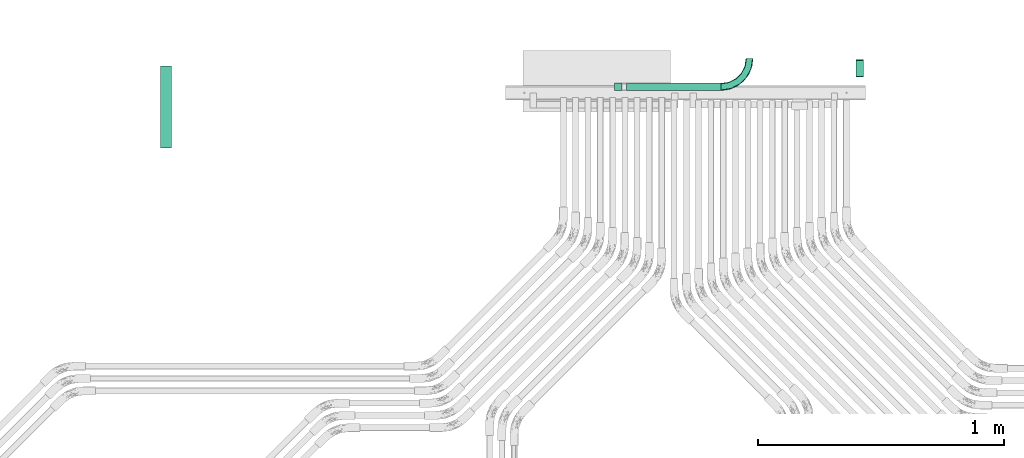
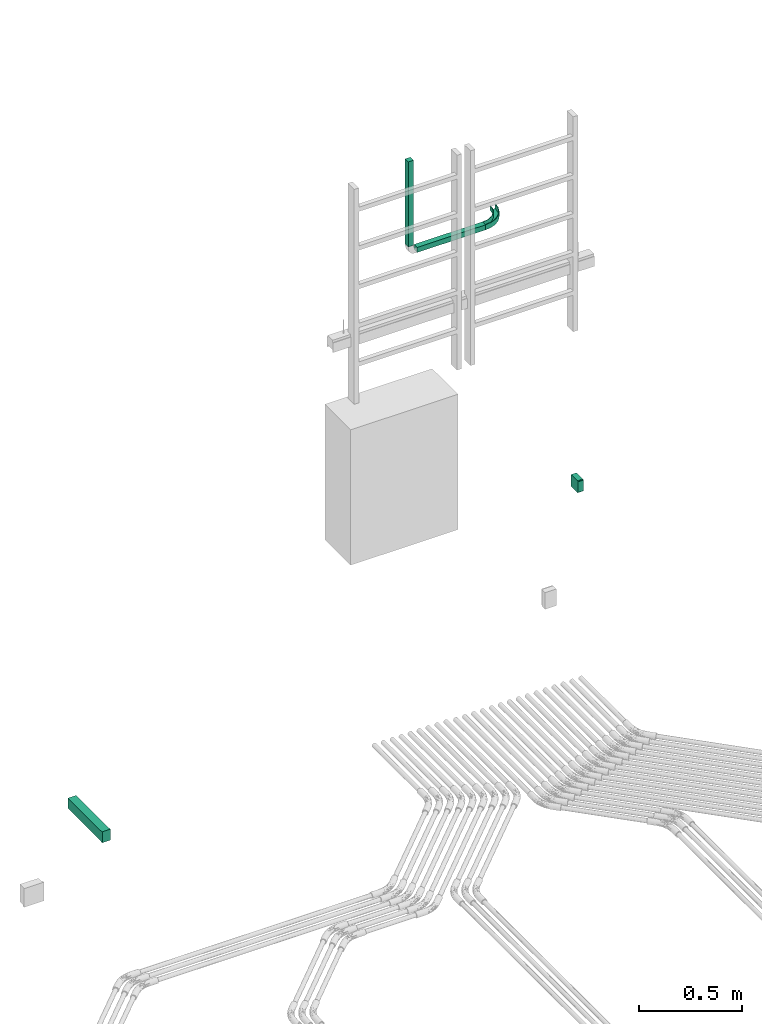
# One storey, part 49 of 51: 2 flow segments, 1 flow controller, 1 flow fitting, 1 flow terminal.
"""IFC2X3 building model written with IfcOpenShell, lengths in millimetres."""

from ifc_helpers import new_model, entity, si_unit, converted_unit, derived_unit, direction, frame, origin_with_axes, place, context, subcontext, project, spatial, open_shell, faceted_brep, surface_model, source, transform, mapped, type_object, element, save


model = new_model("IFC2X3")

# Units and contexts
model_context = context("Model", 3, precision=0.01, world=frame((0.0, 4.29681676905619e-09, 0.0)), true_north=direction((4.01073788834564e-13, 1.0)))
plan_context = context("Plan", 3, precision=0.01, world=frame((0.0, 4.29681676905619e-09, 0.0)), true_north=direction((4.01073788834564e-13, 1.0)))
body_context = subcontext(model_context, "Body", "Model", "MODEL_VIEW")
ifc_project = project(units=[converted_unit("PLANEANGLEUNIT", "DEGREE", entity("IfcPositiveLengthMeasure", 0.0174532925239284), si_unit("PLANEANGLEUNIT", "RADIAN"), dimensions=[0, 0, 0, 0, 0, 0, 0]), si_unit("AREAUNIT", "SQUARE_METRE"), si_unit("LENGTHUNIT", "METRE", prefix="MILLI"), si_unit("MASSUNIT", "GRAM", prefix="KILO"), si_unit("POWERUNIT", "WATT"), si_unit("PRESSUREUNIT", "PASCAL"), si_unit("FORCEUNIT", "NEWTON", prefix="KILO"), si_unit("ELECTRICVOLTAGEUNIT", "VOLT"), si_unit("ELECTRICCURRENTUNIT", "AMPERE"), si_unit("THERMODYNAMICTEMPERATUREUNIT", "DEGREE_CELSIUS"), si_unit("TIMEUNIT", "SECOND"), si_unit("VOLUMEUNIT", "CUBIC_METRE"), derived_unit("LINEARVELOCITYUNIT", [(si_unit("LENGTHUNIT", "METRE"), 1), (si_unit("TIMEUNIT", "SECOND"), -1)]), derived_unit("VOLUMETRICFLOWRATEUNIT", [(si_unit("VOLUMEUNIT", "CUBIC_METRE"), 1), (si_unit("TIMEUNIT", "SECOND"), -1)]), derived_unit("THERMALTRANSMITTANCEUNIT", [(si_unit("POWERUNIT", "WATT"), 1), (si_unit("THERMODYNAMICTEMPERATUREUNIT", "KELVIN"), -1), (si_unit("AREAUNIT", "SQUARE_METRE"), -1)]), derived_unit("SOUNDPRESSUREUNIT", [(si_unit("PRESSUREUNIT", "PASCAL"), 1)])], contexts=[model_context, plan_context])

# Site, building, storey
site_placement = place(None, frame((0.0, -4.29681676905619e-09, 0.0), z_axis=(0.0, 0.0, 1.0), x_axis=(1.0, 0.0, 0.0)))
site = spatial("IfcSite", under=ifc_project, at=site_placement, Name="ENGM", CompositionType="ELEMENT")
building_placement = place(site_placement, frame((0.0, 4.29681676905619e-09, 0.0), z_axis=(0.0, 0.0, 1.0), x_axis=(1.0, 0.0, 0.0)))
building = spatial("IfcBuilding", under=site, at=building_placement, Name="TI", CompositionType="ELEMENT")
storey_placement = place(building_placement, frame((0.0, 0.0, 210900.0), z_axis=(0.0, 0.0, 1.0), x_axis=(1.0, 0.0, 0.0)))
storey = spatial("IfcBuildingStorey", under=building, at=storey_placement, Name="Nivå F", CompositionType="ELEMENT", Elevation=210900.0)

# Flow controller
switching_device_type = type_object("IfcSwitchingDeviceType", Name="Bryter KNX (2)", PredefinedType="NOTDEFINED")
shared_shape_1 = source(origin_with_axes(), body_context, "Body", "SurfaceModel", [
    surface_model("IfcShellBasedSurfaceModel", [(30.0, -30.0, -35.1), (-30.0, -30.0, -35.1), (-30.0, 0.0, -35.1), (30.0, 0.0, -35.1), (-30.0, 0.0, -34.9), (30.0, -30.0, -34.9), (30.0, 0.0, -34.9), (-30.0, -30.0, -34.9), (34.9, 0.0, 30.0), (34.9, 0.0, -30.0), (34.9, -30.0, -30.0), (34.9, -30.0, 30.0), (35.1, -30.0, -30.0), (35.1, 0.0, 30.0), (35.1, -30.0, 30.0), (35.1, 0.0, -30.0), (-35.1, 0.0, 30.0), (-35.1, 0.0, -30.0), (-35.1, -30.0, -30.0), (-35.1, -30.0, 30.0), (-34.9, -30.0, -30.0), (-34.9, 0.0, 30.0), (-34.9, -30.0, 30.0), (-34.9, 0.0, -30.0), (30.0, -29.9, 30.0), (35.0, -29.9, -30.0), (30.0, -29.9, -30.0), (35.0, -29.9, 30.0), (35.0, -30.1, -30.0), (35.0, -30.1, 30.0), (30.0, -30.1, 30.0), (30.0, -30.1, -30.0), (30.0, -29.9, 35.0), (30.0, -29.9, -35.0), (0.0, -29.9, -35.0), (0.0, -29.9, 35.0), (0.0, -30.1, -35.0), (30.0, -30.1, 35.0), (0.0, -30.1, 35.0), (30.0, -30.1, -35.0), (-30.0, -29.9, -35.0), (-30.0, -29.9, 35.0), (-30.0, -30.1, -35.0), (-30.0, -30.1, 35.0), (-35.0, -29.9, 30.0), (-30.0, -29.9, -30.0), (-35.0, -29.9, -30.0), (-30.0, -29.9, 30.0), (-30.0, -30.1, -30.0), (-30.0, -30.1, 30.0), (-35.0, -30.1, 30.0), (-35.0, -30.1, -30.0), (30.0, -30.0, 34.9), (-30.0, -30.0, 34.9), (-30.0, 0.0, 34.9), (30.0, 0.0, 34.9), (-30.0, 0.0, 35.1), (30.0, -30.0, 35.1), (30.0, 0.0, 35.1), (-30.0, -30.0, 35.1), (-35.0, 0.1, 30.0), (-30.0, 0.1, -30.0), (-35.0, 0.1, -30.0), (-30.0, 0.1, 30.0), (-30.0, -0.1, -30.0), (-30.0, -0.1, 30.0), (-35.0, -0.1, 30.0), (-35.0, -0.1, -30.0), (30.0, 0.1, 35.0), (30.0, 0.1, 30.0), (-30.0, 0.1, 35.0), (30.0, -0.1, 30.0), (30.0, -0.1, 35.0), (-30.0, -0.1, 35.0), (30.0, 0.1, -30.0), (30.0, 0.1, -35.0), (-30.0, 0.1, -35.0), (30.0, -0.1, -35.0), (30.0, -0.1, -30.0), (-30.0, -0.1, -35.0), (35.0, 0.1, -30.0), (35.0, 0.1, 30.0), (35.0, -0.1, -30.0), (35.0, -0.1, 30.0), (30.0, -30.0, -34.2), (30.0, -30.0, -35.0), (31.2941, -30.0, -34.82963), (31.08704, -30.0, -34.05689), (32.5, -30.0, -34.33013), (33.53553, -30.0, -33.53553), (32.1, -30.0, -33.63731), (32.96985, -30.0, -32.96985), (34.33013, -30.0, -32.5), (34.05689, -30.0, -31.08704), (33.63731, -30.0, -32.1), (34.82963, -30.0, -31.2941), (35.0, -30.0, -30.0), (34.2, -30.0, -30.0), (33.53553, 0.0, -33.53553), (33.63731, 0.0, -32.1), (34.33013, 0.0, -32.5), (34.05689, 0.0, -31.08704), (34.82963, 0.0, -31.2941), (34.2, 0.0, -30.0), (35.0, 0.0, -30.0), (32.96985, 0.0, -32.96985), (30.0, 0.0, -34.2), (31.08704, 0.0, -34.05689), (31.2941, 0.0, -34.82963), (30.0, 0.0, -35.0), (32.5, 0.0, -34.33013), (32.1, 0.0, -33.63731), (34.2, -30.0, 30.0), (35.0, -30.0, 30.0), (34.82963, -30.0, 31.2941), (34.05689, -30.0, 31.08704), (34.33013, -30.0, 32.5), (33.53553, -30.0, 33.53553), (33.63731, -30.0, 32.1), (32.96985, -30.0, 32.96985), (32.5, -30.0, 34.33013), (31.08704, -30.0, 34.05689), (32.1, -30.0, 33.63731), (31.2941, -30.0, 34.82963), (30.0, -30.0, 35.0), (30.0, -30.0, 34.2), (33.53553, 0.0, 33.53553), (32.1, 0.0, 33.63731), (32.5, 0.0, 34.33013), (31.08704, 0.0, 34.05689), (31.2941, 0.0, 34.82963), (30.0, 0.0, 34.2), (30.0, 0.0, 35.0), (32.96985, 0.0, 32.96985), (34.2, 0.0, 30.0), (34.05689, 0.0, 31.08704), (34.82963, 0.0, 31.2941), (35.0, 0.0, 30.0), (34.33013, 0.0, 32.5), (33.63731, 0.0, 32.1), (-34.2, -30.0, -30.0), (-35.0, -30.0, -30.0), (-34.82963, -30.0, -31.2941), (-34.05689, -30.0, -31.08704), (-34.33013, -30.0, -32.5), (-33.53553, -30.0, -33.53553), (-33.63731, -30.0, -32.1), (-32.96985, -30.0, -32.96985), (-32.5, -30.0, -34.33013), (-31.08704, -30.0, -34.05689), (-32.1, -30.0, -33.63731), (-31.2941, -30.0, -34.82963), (-30.0, -30.0, -35.0), (-30.0, -30.0, -34.2), (-33.53553, 0.0, -33.53553), (-32.1, 0.0, -33.63731), (-32.5, 0.0, -34.33013), (-31.08704, 0.0, -34.05689), (-31.2941, 0.0, -34.82963), (-30.0, 0.0, -34.2), (-30.0, 0.0, -35.0), (-32.96985, 0.0, -32.96985), (-34.2, 0.0, -30.0), (-34.05689, 0.0, -31.08704), (-34.82963, 0.0, -31.2941), (-35.0, 0.0, -30.0), (-34.33013, 0.0, -32.5), (-33.63731, 0.0, -32.1), (-30.0, -30.0, 34.2), (-30.0, -30.0, 35.0), (-31.2941, -30.0, 34.82963), (-31.08704, -30.0, 34.05689), (-32.5, -30.0, 34.33013), (-33.53553, -30.0, 33.53553), (-32.1, -30.0, 33.63731), (-32.96985, -30.0, 32.96985), (-34.33013, -30.0, 32.5), (-34.05689, -30.0, 31.08704), (-33.63731, -30.0, 32.1), (-34.82963, -30.0, 31.2941), (-35.0, -30.0, 30.0), (-34.2, -30.0, 30.0), (-33.53553, 0.0, 33.53553), (-33.63731, 0.0, 32.1), (-34.33013, 0.0, 32.5), (-34.05689, 0.0, 31.08704), (-34.82963, 0.0, 31.2941), (-34.2, 0.0, 30.0), (-35.0, 0.0, 30.0), (-32.96985, 0.0, 32.96985), (-30.0, 0.0, 34.2), (-31.08704, 0.0, 34.05689), (-31.2941, 0.0, 34.82963), (-30.0, 0.0, 35.0), (-32.5, 0.0, 34.33013), (-32.1, 0.0, 33.63731), (31.2941, -30.1, -34.82963), (32.5, -30.1, -34.33013), (33.53553, -30.1, -33.53553), (34.82963, -30.1, -31.2941), (34.33013, -30.1, -32.5), (34.82963, -29.9, -31.2941), (34.33013, -29.9, -32.5), (33.53553, -29.9, -33.53553), (32.5, -29.9, -34.33013), (31.2941, -29.9, -34.82963), (34.82963, -30.1, 31.2941), (34.33013, -30.1, 32.5), (33.53553, -30.1, 33.53553), (31.2941, -30.1, 34.82963), (32.5, -30.1, 34.33013), (31.2941, -29.9, 34.82963), (32.5, -29.9, 34.33013), (33.53553, -29.9, 33.53553), (34.33013, -29.9, 32.5), (34.82963, -29.9, 31.2941), (-34.82963, -30.1, -31.2941), (-34.33013, -30.1, -32.5), (-33.53553, -30.1, -33.53553), (-31.2941, -30.1, -34.82963), (-32.5, -30.1, -34.33013), (-31.2941, -29.9, -34.82963), (-32.5, -29.9, -34.33013), (-33.53553, -29.9, -33.53553), (-34.33013, -29.9, -32.5), (-34.82963, -29.9, -31.2941), (-31.2941, -30.1, 34.82963), (-32.5, -30.1, 34.33013), (-33.53553, -30.1, 33.53553), (-34.82963, -30.1, 31.2941), (-34.33013, -30.1, 32.5), (-34.82963, -29.9, 31.2941), (-34.33013, -29.9, 32.5), (-33.53553, -29.9, 33.53553), (-32.5, -29.9, 34.33013), (-31.2941, -29.9, 34.82963), (-31.2941, -0.1, 34.82963), (-32.5, -0.1, 34.33013), (-33.53553, -0.1, 33.53553), (-34.82963, -0.1, 31.2941), (-34.33013, -0.1, 32.5), (-34.82963, 0.1, 31.2941), (-34.33013, 0.1, 32.5), (-33.53553, 0.1, 33.53553), (-32.5, 0.1, 34.33013), (-31.2941, 0.1, 34.82963), (34.82963, -0.1, 31.2941), (34.33013, -0.1, 32.5), (33.53553, -0.1, 33.53553), (31.2941, -0.1, 34.82963), (32.5, -0.1, 34.33013), (31.2941, 0.1, 34.82963), (32.5, 0.1, 34.33013), (33.53553, 0.1, 33.53553), (34.33013, 0.1, 32.5), (34.82963, 0.1, 31.2941), (-34.82963, -0.1, -31.2941), (-34.33013, -0.1, -32.5), (-33.53553, -0.1, -33.53553), (-31.2941, -0.1, -34.82963), (-32.5, -0.1, -34.33013), (-31.2941, 0.1, -34.82963), (-32.5, 0.1, -34.33013), (-33.53553, 0.1, -33.53553), (-34.82963, 0.1, -31.2941), (-34.33013, 0.1, -32.5), (31.2941, -0.1, -34.82963), (32.5, -0.1, -34.33013), (33.53553, -0.1, -33.53553), (34.82963, -0.1, -31.2941), (34.33013, -0.1, -32.5), (34.82963, 0.1, -31.2941), (34.33013, 0.1, -32.5), (33.53553, 0.1, -33.53553), (32.5, 0.1, -34.33013), (31.2941, 0.1, -34.82963)], [open_shell([[[0, 1, 2]], [[2, 3, 0]], [[4, 5, 6]], [[5, 4, 7]], [[7, 1, 0]], [[0, 5, 7]], [[5, 0, 3]], [[3, 6, 5]], [[6, 3, 2]], [[2, 4, 6]], [[4, 2, 1]], [[1, 7, 4]], [[8, 9, 10]], [[10, 11, 8]], [[12, 13, 14]], [[13, 12, 15]], [[15, 9, 8]], [[8, 13, 15]], [[13, 8, 11]], [[11, 14, 13]], [[14, 11, 10]], [[10, 12, 14]], [[12, 10, 9]], [[9, 15, 12]], [[16, 17, 18]], [[18, 19, 16]], [[20, 21, 22]], [[21, 20, 23]], [[23, 17, 16]], [[16, 21, 23]], [[21, 16, 19]], [[19, 22, 21]], [[22, 19, 18]], [[18, 20, 22]], [[20, 18, 17]], [[17, 23, 20]], [[24, 25, 26]], [[25, 24, 27]], [[28, 29, 30]], [[30, 31, 28]], [[28, 25, 27]], [[27, 29, 28]], [[29, 27, 24]], [[24, 30, 29]], [[30, 24, 26]], [[26, 31, 30]], [[31, 26, 25]], [[25, 28, 31]], [[32, 33, 34]], [[34, 35, 32]], [[36, 37, 38]], [[37, 36, 39]], [[37, 33, 32]], [[33, 37, 39]], [[37, 32, 35]], [[35, 38, 37]], [[36, 35, 34]], [[35, 36, 38]], [[36, 34, 33]], [[33, 39, 36]], [[35, 34, 40]], [[40, 41, 35]], [[42, 38, 43]], [[38, 42, 36]], [[38, 34, 35]], [[34, 38, 36]], [[38, 35, 41]], [[41, 43, 38]], [[42, 41, 40]], [[41, 42, 43]], [[42, 40, 34]], [[34, 36, 42]], [[44, 45, 46]], [[45, 44, 47]], [[48, 49, 50]], [[50, 51, 48]], [[48, 45, 47]], [[47, 49, 48]], [[49, 47, 44]], [[44, 50, 49]], [[50, 44, 46]], [[46, 51, 50]], [[51, 46, 45]], [[45, 48, 51]], [[52, 53, 54]], [[54, 55, 52]], [[56, 57, 58]], [[57, 56, 59]], [[59, 53, 52]], [[52, 57, 59]], [[57, 52, 55]], [[55, 58, 57]], [[58, 55, 54]], [[54, 56, 58]], [[56, 54, 53]], [[53, 59, 56]], [[60, 61, 62]], [[61, 60, 63]], [[64, 65, 66]], [[66, 67, 64]], [[64, 61, 63]], [[63, 65, 64]], [[65, 63, 60]], [[60, 66, 65]], [[66, 60, 62]], [[62, 67, 66]], [[67, 62, 61]], [[61, 64, 67]], [[68, 69, 63]], [[63, 70, 68]], [[71, 72, 73]], [[73, 65, 71]], [[71, 69, 68]], [[68, 72, 71]], [[72, 68, 70]], [[70, 73, 72]], [[73, 70, 63]], [[63, 65, 73]], [[65, 63, 69]], [[69, 71, 65]], [[74, 75, 76]], [[76, 61, 74]], [[77, 78, 64]], [[64, 79, 77]], [[77, 75, 74]], [[74, 78, 77]], [[78, 74, 61]], [[61, 64, 78]], [[64, 61, 76]], [[76, 79, 64]], [[79, 76, 75]], [[75, 77, 79]], [[69, 80, 74]], [[80, 69, 81]], [[82, 83, 71]], [[71, 78, 82]], [[82, 80, 81]], [[81, 83, 82]], [[83, 81, 69]], [[69, 71, 83]], [[71, 69, 74]], [[74, 78, 71]], [[78, 74, 80]], [[80, 82, 78]], [[69, 74, 61]], [[61, 63, 69]], [[78, 71, 65]], [[65, 64, 78]], [[78, 74, 69]], [[69, 71, 78]], [[71, 69, 63]], [[63, 65, 71]], [[65, 63, 61]], [[61, 64, 65]], [[64, 61, 74]], [[74, 78, 64]], [[84, 85, 86]], [[87, 84, 86]], [[88, 87, 86]], [[88, 89, 90]], [[91, 90, 89]], [[88, 90, 87]], [[92, 93, 94]], [[89, 92, 94]], [[95, 93, 92]], [[95, 96, 97]], [[95, 97, 93]], [[91, 89, 94]], [[98, 99, 100]], [[100, 99, 101]], [[102, 103, 104]], [[101, 103, 102]], [[102, 100, 101]], [[98, 105, 99]], [[106, 107, 108]], [[109, 106, 108]], [[110, 111, 98]], [[105, 98, 111]], [[107, 111, 110]], [[110, 108, 107]], [[109, 85, 84]], [[84, 106, 109]], [[106, 84, 87]], [[107, 87, 90]], [[106, 87, 107]], [[111, 91, 105]], [[111, 107, 90]], [[91, 111, 90]], [[93, 97, 103]], [[94, 93, 101]], [[105, 94, 99]], [[99, 94, 101]], [[93, 103, 101]], [[94, 105, 91]], [[103, 97, 96]], [[96, 104, 103]], [[102, 104, 95]], [[100, 102, 92]], [[95, 104, 96]], [[92, 102, 95]], [[92, 89, 100]], [[89, 98, 100]], [[110, 98, 88]], [[108, 110, 86]], [[86, 110, 88]], [[86, 85, 109]], [[86, 109, 108]], [[89, 88, 98]], [[112, 113, 114]], [[115, 112, 114]], [[116, 115, 114]], [[116, 117, 118]], [[119, 118, 117]], [[116, 118, 115]], [[120, 121, 122]], [[117, 120, 122]], [[123, 121, 120]], [[123, 124, 125]], [[123, 125, 121]], [[119, 117, 122]], [[126, 127, 128]], [[128, 127, 129]], [[130, 131, 132]], [[129, 131, 130]], [[130, 128, 129]], [[126, 133, 127]], [[134, 135, 136]], [[137, 134, 136]], [[138, 139, 126]], [[133, 126, 139]], [[135, 139, 138]], [[138, 136, 135]], [[137, 113, 112]], [[112, 134, 137]], [[134, 112, 115]], [[135, 115, 118]], [[134, 115, 135]], [[139, 119, 133]], [[139, 135, 118]], [[119, 139, 118]], [[121, 125, 131]], [[122, 121, 129]], [[133, 122, 127]], [[127, 122, 129]], [[121, 131, 129]], [[122, 133, 119]], [[131, 125, 124]], [[124, 132, 131]], [[130, 132, 123]], [[128, 130, 120]], [[123, 132, 124]], [[120, 130, 123]], [[120, 117, 128]], [[117, 126, 128]], [[138, 126, 116]], [[136, 138, 114]], [[114, 138, 116]], [[114, 113, 137]], [[114, 137, 136]], [[117, 116, 126]], [[140, 141, 142]], [[143, 140, 142]], [[144, 143, 142]], [[144, 145, 146]], [[147, 146, 145]], [[144, 146, 143]], [[148, 149, 150]], [[145, 148, 150]], [[151, 149, 148]], [[151, 152, 153]], [[151, 153, 149]], [[147, 145, 150]], [[154, 155, 156]], [[156, 155, 157]], [[158, 159, 160]], [[157, 159, 158]], [[158, 156, 157]], [[154, 161, 155]], [[162, 163, 164]], [[165, 162, 164]], [[166, 167, 154]], [[161, 154, 167]], [[163, 167, 166]], [[166, 164, 163]], [[165, 141, 140]], [[140, 162, 165]], [[162, 140, 143]], [[163, 143, 146]], [[162, 143, 163]], [[167, 147, 161]], [[167, 163, 146]], [[147, 167, 146]], [[149, 153, 159]], [[150, 149, 157]], [[161, 150, 155]], [[155, 150, 157]], [[149, 159, 157]], [[150, 161, 147]], [[159, 153, 152]], [[152, 160, 159]], [[158, 160, 151]], [[156, 158, 148]], [[151, 160, 152]], [[148, 158, 151]], [[148, 145, 156]], [[145, 154, 156]], [[166, 154, 144]], [[164, 166, 142]], [[142, 166, 144]], [[142, 141, 165]], [[142, 165, 164]], [[145, 144, 154]], [[168, 169, 170]], [[171, 168, 170]], [[172, 171, 170]], [[172, 173, 174]], [[175, 174, 173]], [[172, 174, 171]], [[176, 177, 178]], [[173, 176, 178]], [[179, 177, 176]], [[179, 180, 181]], [[179, 181, 177]], [[175, 173, 178]], [[182, 183, 184]], [[184, 183, 185]], [[186, 187, 188]], [[185, 187, 186]], [[186, 184, 185]], [[182, 189, 183]], [[190, 191, 192]], [[193, 190, 192]], [[194, 195, 182]], [[189, 182, 195]], [[191, 195, 194]], [[194, 192, 191]], [[193, 169, 168]], [[168, 190, 193]], [[190, 168, 171]], [[191, 171, 174]], [[190, 171, 191]], [[195, 175, 189]], [[195, 191, 174]], [[175, 195, 174]], [[177, 181, 187]], [[178, 177, 185]], [[189, 178, 183]], [[183, 178, 185]], [[177, 187, 185]], [[178, 189, 175]], [[187, 181, 180]], [[180, 188, 187]], [[186, 188, 179]], [[184, 186, 176]], [[179, 188, 180]], [[186, 179, 176]], [[184, 176, 173]], [[173, 182, 184]], [[194, 182, 172]], [[192, 194, 170]], [[170, 194, 172]], [[192, 170, 169]], [[192, 169, 193]], [[173, 172, 182]], [[31, 196, 197]], [[197, 198, 31]], [[39, 196, 31]], [[199, 31, 200]], [[198, 200, 31]], [[31, 199, 28]], [[201, 202, 26]], [[203, 26, 202]], [[26, 25, 201]], [[26, 204, 205]], [[204, 26, 203]], [[205, 33, 26]], [[33, 39, 31]], [[31, 26, 33]], [[26, 31, 28]], [[28, 25, 26]], [[201, 25, 199]], [[202, 201, 200]], [[199, 25, 28]], [[201, 199, 200]], [[202, 200, 198]], [[198, 203, 202]], [[204, 203, 197]], [[205, 204, 196]], [[196, 204, 197]], [[205, 196, 39]], [[205, 39, 33]], [[198, 197, 203]], [[30, 206, 207]], [[207, 208, 30]], [[29, 206, 30]], [[209, 30, 210]], [[208, 210, 30]], [[30, 209, 37]], [[211, 212, 24]], [[213, 24, 212]], [[24, 32, 211]], [[24, 214, 215]], [[214, 24, 213]], [[215, 27, 24]], [[27, 29, 30]], [[30, 24, 27]], [[24, 30, 37]], [[37, 32, 24]], [[211, 32, 209]], [[212, 211, 210]], [[209, 32, 37]], [[211, 209, 210]], [[212, 210, 208]], [[208, 213, 212]], [[214, 213, 207]], [[215, 214, 206]], [[206, 214, 207]], [[215, 206, 29]], [[215, 29, 27]], [[208, 207, 213]], [[48, 216, 217]], [[217, 218, 48]], [[51, 216, 48]], [[219, 48, 220]], [[218, 220, 48]], [[48, 219, 42]], [[221, 222, 45]], [[223, 45, 222]], [[45, 40, 221]], [[45, 224, 225]], [[224, 45, 223]], [[225, 46, 45]], [[46, 51, 48]], [[48, 45, 46]], [[45, 48, 42]], [[42, 40, 45]], [[221, 40, 219]], [[222, 221, 220]], [[219, 40, 42]], [[221, 219, 220]], [[222, 220, 218]], [[218, 223, 222]], [[224, 223, 217]], [[225, 224, 216]], [[216, 224, 217]], [[225, 216, 51]], [[225, 51, 46]], [[218, 217, 223]], [[49, 226, 227]], [[227, 228, 49]], [[43, 226, 49]], [[229, 49, 230]], [[228, 230, 49]], [[49, 229, 50]], [[231, 232, 47]], [[233, 47, 232]], [[47, 44, 231]], [[47, 234, 235]], [[234, 47, 233]], [[235, 41, 47]], [[41, 43, 49]], [[49, 47, 41]], [[47, 49, 50]], [[50, 44, 47]], [[231, 44, 229]], [[232, 231, 230]], [[229, 44, 50]], [[231, 229, 230]], [[232, 230, 228]], [[228, 233, 232]], [[234, 233, 227]], [[235, 234, 226]], [[226, 234, 227]], [[235, 226, 43]], [[235, 43, 41]], [[228, 227, 233]], [[65, 236, 237]], [[237, 238, 65]], [[73, 236, 65]], [[239, 65, 240]], [[238, 240, 65]], [[65, 239, 66]], [[241, 242, 63]], [[243, 63, 242]], [[63, 60, 241]], [[63, 244, 245]], [[244, 63, 243]], [[245, 70, 63]], [[70, 73, 65]], [[65, 63, 70]], [[63, 65, 66]], [[66, 60, 63]], [[241, 60, 239]], [[242, 241, 240]], [[239, 60, 66]], [[241, 239, 240]], [[242, 240, 238]], [[238, 243, 242]], [[244, 243, 237]], [[245, 244, 236]], [[236, 244, 237]], [[245, 236, 73]], [[245, 73, 70]], [[238, 237, 243]], [[71, 246, 247]], [[247, 248, 71]], [[83, 246, 71]], [[249, 71, 250]], [[248, 250, 71]], [[71, 249, 72]], [[251, 252, 69]], [[253, 69, 252]], [[69, 68, 251]], [[69, 254, 255]], [[254, 69, 253]], [[255, 81, 69]], [[81, 83, 71]], [[71, 69, 81]], [[69, 71, 72]], [[72, 68, 69]], [[251, 68, 249]], [[252, 251, 250]], [[249, 68, 72]], [[251, 249, 250]], [[252, 250, 248]], [[248, 253, 252]], [[254, 253, 247]], [[255, 254, 246]], [[246, 254, 247]], [[255, 246, 83]], [[255, 83, 81]], [[248, 247, 253]], [[256, 257, 64]], [[257, 258, 64]], [[64, 67, 256]], [[259, 64, 260]], [[258, 260, 64]], [[64, 259, 79]], [[261, 262, 61]], [[263, 61, 262]], [[61, 76, 261]], [[264, 61, 265]], [[265, 61, 263]], [[62, 61, 264]], [[62, 67, 64]], [[64, 61, 62]], [[61, 64, 79]], [[79, 76, 61]], [[261, 76, 259]], [[262, 261, 260]], [[259, 76, 79]], [[261, 259, 260]], [[262, 260, 258]], [[258, 263, 262]], [[265, 263, 257]], [[264, 265, 256]], [[256, 265, 257]], [[264, 256, 67]], [[264, 67, 62]], [[258, 257, 263]], [[78, 266, 267]], [[267, 268, 78]], [[77, 266, 78]], [[269, 78, 270]], [[268, 270, 78]], [[78, 269, 82]], [[271, 272, 74]], [[273, 74, 272]], [[74, 80, 271]], [[74, 274, 275]], [[274, 74, 273]], [[275, 75, 74]], [[74, 77, 78]], [[77, 74, 75]], [[80, 78, 82]], [[78, 80, 74]], [[271, 80, 269]], [[272, 271, 270]], [[269, 80, 82]], [[271, 269, 270]], [[272, 270, 268]], [[268, 273, 272]], [[274, 273, 267]], [[275, 274, 266]], [[266, 274, 267]], [[275, 266, 77]], [[275, 77, 75]], [[268, 267, 273]]])]),
])
flow_controller_placement = place(storey_placement, frame((601844.42127, 699465.54258, 1000.0), z_axis=(0.0, 0.0, 1.0), x_axis=(0.0, -1.0, 0.0)))
element("IfcFlowController", 1, at=flow_controller_placement, inside=storey, type_object=switching_device_type, Name="Bryter KNX (2)", context=body_context, shape_type="MappedRepresentation", body=[
    mapped(shared_shape_1, transform((0.0, 0.0, 0.0), scale=1.0)),
])

# Flow fitting
cable_carrier_fitting_type = type_object("IfcCableCarrierFittingType", Name="Logiske føringsveier (bend)", PredefinedType="BEND")
shared_shape_2 = source(origin_with_axes(), body_context, "Body", "SurfaceModel", [
    surface_model("IfcShellBasedSurfaceModel", [(-116.0, -12.46, -12.46), (-116.0, 12.46, -12.46), (-116.0, 15.0, -15.0), (-116.0, 15.0, 15.0), (-116.0, -15.0, 15.0), (-116.0, -15.0, -15.0), (-116.0, 12.46, 15.0), (-116.0, -12.46, 15.0), (-15.0, 116.0, -15.0), (-12.46, 116.0, -12.46), (12.46, 116.0, -12.46), (-15.0, 116.0, 15.0), (15.0, 116.0, -15.0), (15.0, 116.0, 15.0), (-12.46, 116.0, 15.0), (12.46, 116.0, 15.0), (-115.0, -15.0, -15.0), (-115.0, -15.0, 15.0), (-115.0, -12.46, 15.0), (-81.35353, -10.57036, 15.0), (-75.61269, -6.22166, 15.0), (-50.0, 2.4167, 15.0), (-40.08089, 11.88269, 15.0), (-23.07612, 23.07612, 15.0), (-11.88269, 40.08089, 15.0), (-2.4167, 50.0, 15.0), (6.22166, 75.61269, 15.0), (10.57036, 81.35353, 15.0), (12.46, 115.0, 15.0), (15.0, 115.0, 15.0), (-115.0, -12.46, -12.46), (-75.61269, -6.22166, -12.46), (-115.0, 12.46, -12.46), (-40.08089, 11.88269, -12.46), (-83.3134, 17.47866, -12.46), (-54.7285, 32.0434, -12.46), (-32.0434, 54.7285, -12.46), (-17.47866, 83.3134, -12.46), (-11.88269, 40.08089, -12.46), (6.22166, 75.61269, -12.46), (-12.46, 115.0, -12.46), (12.46, 115.0, -12.46), (-115.0, 12.46, 15.0), (-115.0, 15.0, 15.0), (-83.3134, 17.47866, 15.0), (-84.0983, 19.89435, 15.0), (-54.7285, 32.0434, 15.0), (-56.22147, 34.0983, 15.0), (-34.0983, 56.22147, 15.0), (-32.0434, 54.7285, 15.0), (-19.89435, 84.0983, 15.0), (-17.47866, 83.3134, 15.0), (-15.0, 115.0, 15.0), (-12.46, 115.0, 15.0), (-115.0, 15.0, -15.0), (-84.0983, 19.89435, -15.0), (-56.22147, 34.0983, -15.0), (-50.0, 2.4167, -15.0), (-81.35353, -10.57036, -15.0), (-23.07612, 23.07612, -15.0), (-15.0, 115.0, -15.0), (15.0, 115.0, -15.0), (10.57036, 81.35353, -15.0), (-34.0983, 56.22147, -15.0), (-2.4167, 50.0, -15.0), (-19.89435, 84.0983, -15.0)], [open_shell([[[0, 1, 2]], [[3, 2, 1]], [[4, 0, 5]], [[2, 5, 0]], [[1, 6, 3]], [[0, 4, 7]], [[8, 9, 10]], [[9, 8, 11]], [[12, 10, 13]], [[10, 12, 8]], [[11, 14, 9]], [[15, 13, 10]], [[4, 5, 16]], [[16, 17, 4]], [[7, 4, 17]], [[17, 18, 7]], [[18, 17, 19]], [[19, 20, 18]], [[20, 19, 21]], [[21, 22, 20]], [[22, 21, 23]], [[24, 23, 25]], [[25, 26, 24]], [[26, 25, 27]], [[28, 27, 29]], [[15, 29, 13]], [[29, 15, 28]], [[28, 26, 27]], [[24, 22, 23]], [[0, 7, 18]], [[18, 30, 0]], [[1, 0, 30]], [[30, 31, 32]], [[33, 34, 31]], [[32, 1, 30]], [[35, 34, 33]], [[32, 31, 34]], [[33, 36, 35]], [[37, 36, 38]], [[38, 39, 37]], [[36, 33, 38]], [[37, 39, 40]], [[9, 40, 41]], [[41, 10, 9]], [[40, 39, 41]], [[6, 1, 42]], [[32, 42, 1]], [[3, 6, 42]], [[42, 43, 3]], [[43, 42, 44]], [[45, 44, 46]], [[44, 45, 43]], [[47, 46, 48]], [[46, 47, 45]], [[48, 49, 50]], [[49, 48, 46]], [[50, 51, 52]], [[51, 50, 49]], [[11, 52, 53]], [[53, 14, 11]], [[52, 51, 53]], [[2, 3, 54]], [[43, 54, 3]], [[2, 54, 16]], [[55, 56, 57]], [[54, 55, 58]], [[5, 2, 16]], [[58, 16, 54]], [[57, 58, 55]], [[56, 59, 57]], [[60, 8, 61]], [[12, 61, 8]], [[60, 61, 62]], [[63, 59, 56]], [[59, 63, 64]], [[65, 62, 64]], [[62, 65, 60]], [[65, 64, 63]], [[19, 16, 58]], [[21, 58, 57]], [[17, 16, 19]], [[21, 19, 58]], [[23, 21, 57]], [[57, 59, 23]], [[59, 64, 25]], [[25, 62, 27]], [[62, 25, 64]], [[27, 62, 61]], [[61, 29, 27]], [[59, 25, 23]], [[31, 30, 20]], [[33, 31, 22]], [[18, 20, 30]], [[22, 31, 20]], [[22, 24, 33]], [[26, 41, 39]], [[24, 39, 38]], [[39, 24, 26]], [[41, 26, 28]], [[33, 24, 38]], [[44, 32, 34]], [[46, 34, 35]], [[32, 44, 42]], [[44, 34, 46]], [[35, 49, 46]], [[37, 40, 53]], [[36, 37, 51]], [[51, 49, 36]], [[53, 51, 37]], [[36, 49, 35]], [[55, 54, 45]], [[56, 55, 47]], [[43, 45, 54]], [[47, 55, 45]], [[47, 48, 56]], [[52, 60, 65]], [[50, 65, 63]], [[63, 48, 50]], [[65, 50, 52]], [[56, 48, 63]], [[29, 61, 13]], [[12, 13, 61]], [[41, 28, 15]], [[15, 10, 41]], [[53, 40, 14]], [[9, 14, 40]], [[60, 52, 11]], [[11, 8, 60]]])]),
])
flow_fitting_placement = place(storey_placement, frame((601381.42634, 699389.82156, 2762.27922), z_axis=(0.0, 0.0, 1.0), x_axis=(1.0, 0.0, 0.0)))
element("IfcFlowFitting", 2, at=flow_fitting_placement, inside=storey, type_object=cable_carrier_fitting_type, Name="Logiske føringsveier (bend)", context=body_context, shape_type="MappedRepresentation", body=[
    mapped(shared_shape_2, transform((0.0, 0.0, 0.0), scale=1.0)),
])

# Flow segments
cable_carrier_segment_type = type_object("IfcCableCarrierSegmentType", Name="Logiske føringsveier", PredefinedType="CABLELADDERSEGMENT")
shared_shape_3 = source(origin_with_axes(), body_context, "Body", "SurfaceModel", [
    surface_model("IfcShellBasedSurfaceModel", [(0.0, 15.0, -15.0), (0.0, -15.0, -15.0), (0.0, -15.0, 15.0), (0.0, 15.0, 15.0), (382.97877, -15.0, 15.0), (382.97877, -15.0, -15.0), (382.97877, 15.0, -15.0), (382.97877, 15.0, 15.0)], [open_shell([[[0, 1, 2]], [[2, 3, 0]], [[4, 5, 6]], [[6, 7, 4]], [[2, 1, 5]], [[5, 4, 2]], [[3, 2, 7]], [[4, 7, 2]], [[0, 3, 7]], [[7, 6, 0]], [[1, 0, 5]], [[6, 5, 0]]])]),
])
flow_segment_1_placement = place(storey_placement, frame((601265.42634, 699389.82156, 2762.27922), z_axis=(0.0, 0.0, 1.0), x_axis=(-1.0, 0.0, 0.0)))
element("IfcFlowSegment", 3, at=flow_segment_1_placement, inside=storey, type_object=cable_carrier_segment_type, Name="Logiske føringsveier", context=body_context, shape_type="MappedRepresentation", body=[
    mapped(shared_shape_3, transform((0.0, 0.0, 0.0), scale=1.0)),
])
flow_segment_2_placement = place(storey_placement, frame((600847.44756, 699389.82156, 4700.0), z_axis=(1.0, 0.0, 0.0), x_axis=(0.0, 0.0, -1.0)))
element("IfcFlowSegment", 4, at=flow_segment_2_placement, inside=storey, type_object=cable_carrier_segment_type, Name="Logiske føringsveier", context=body_context, shape_type="Brep", body=[
    faceted_brep([(1902.72078, -15.0, -15.0), (1902.72078, -15.0, 15.0), (1902.72078, 15.0, 15.0), (1902.72078, 15.0, -15.0), (1400.0, -15.0, -15.0), (1400.0, -15.0, -7.07365391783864), (1400.0, -15.0, 15.0), (1400.0, -7.07365391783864, 15.0), (1400.0, 15.0, 15.0), (1400.0, 15.0, 7.07365391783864), (1400.0, 15.0, -15.0), (1400.0, 7.07365391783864, -15.0)], [[[0, 1, 2]], [[2, 3, 0]], [[4, 5, 0]], [[5, 6, 1, 0]], [[6, 7, 1]], [[7, 8, 2, 1]], [[8, 9, 2]], [[9, 10, 3, 2]], [[10, 11, 3]], [[11, 4, 0, 3]], [[11, 10, 9, 8, 7, 6, 5, 4]]], orient=[[False], [False], [False], [False], [False], [False], [False], [False], [False], [False], [False]]),
])

# Flow terminal
light_fixture_type = type_object("IfcLightFixtureType", Name="IB5384 Zumtobel RRL L1500 LED2700 830-60 NB LDE", PredefinedType="NOTDEFINED")
flow_terminal_placement = place(storey_placement, frame((599010.08849, 699892.02701, 125.0), z_axis=(0.0, 0.0, 1.0), x_axis=(0.0, 1.0, 0.0)))
element("IfcFlowTerminal", 5, at=flow_terminal_placement, inside=storey, type_object=light_fixture_type, Name="IB5384 Zumtobel RRL L1500 LED2700 830-60 NB LDE", context=body_context, shape_type="Brep", body=[
    faceted_brep([(-750.0, 22.5, -62.37747), (-746.39921, 22.5, -60.50696), (-746.39921, 22.5, 0.41317), (-750.0, 22.5, 2.62253), (-735.62501, 22.5, 2.62253), (-735.62501, 22.5, 0.41317), (-735.62501, 22.5, -62.37747), (-735.62501, 22.5, -60.50696), (-735.62501, -22.5, -60.50696), (-735.62501, -22.5, -62.37747), (-746.39921, -22.5, -60.50696), (-750.0, -22.5, -62.37747), (-746.39921, -22.5, 0.41317), (-750.0, -22.5, 2.62253), (-735.62501, -22.5, 2.62253), (-735.62501, -22.5, 0.41317), (-416.527010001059, -12.5796744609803, -42.40098), (-416.527010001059, -22.5, -42.40098), (-745.00002, -22.5, -42.40098), (-416.527010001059, 22.5, -42.40098), (-745.00002, 22.5, -42.40098), (-416.527010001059, -22.5, -59.98147), (-416.527010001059, 12.5796744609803, -59.98147), (-745.00002, 22.5, -59.98147), (-745.00002, -22.5, -59.98147), (-416.527010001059, 22.5, -59.98147), (-416.527010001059, -22.5, -46.2766285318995), (-416.527010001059, 22.5, -56.1058214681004), (-416.527010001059, -12.5796744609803, 0.0), (-416.527010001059, -22.5, 0.0), (-745.00002, -22.5, 0.0), (-416.527010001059, 22.5, 0.0), (-745.00002, 22.5, 0.0), (-416.527010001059, -22.5, -41.59169), (-416.527010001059, 12.5796744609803, -41.59169), (-745.00002, 22.5, -41.59169), (-745.00002, -22.5, -41.59169), (-416.527010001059, 22.5, -41.59169), (-416.527010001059, -22.5, -32.4227321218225), (-416.527010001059, 22.5, -9.16895787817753)], [[[0, 1, 2]], [[2, 3, 0]], [[3, 2, 4]], [[5, 4, 2]], [[1, 0, 6]], [[6, 7, 1]], [[8, 9, 10]], [[11, 10, 9]], [[10, 11, 12]], [[13, 12, 11]], [[12, 13, 14]], [[14, 15, 12]], [[6, 0, 11]], [[11, 9, 6]], [[7, 6, 9]], [[9, 8, 7]], [[1, 7, 10]], [[8, 10, 7]], [[2, 1, 10]], [[10, 12, 2]], [[5, 2, 15]], [[12, 15, 2]], [[4, 5, 14]], [[15, 14, 5]], [[3, 4, 14]], [[14, 13, 3]], [[0, 3, 13]], [[13, 11, 0]], [[16, 17, 18]], [[19, 16, 18, 20]], [[21, 22, 23, 24]], [[22, 25, 23]], [[17, 26, 18]], [[26, 21, 24, 18]], [[20, 18, 24]], [[24, 23, 20]], [[27, 19, 20, 23]], [[25, 27, 23]], [[28, 29, 30]], [[31, 28, 30, 32]], [[33, 34, 35, 36]], [[34, 37, 35]], [[29, 38, 36, 30]], [[38, 33, 36]], [[32, 30, 35]], [[36, 35, 30]], [[39, 31, 32]], [[37, 39, 32, 35]], [[19, 27, 25, 22, 21, 26, 17, 16]], [[31, 39, 37, 34, 33, 38, 29, 28]]], orient=[[False], [False], [False], [False], [False], [False], [False], [False], [False], [False], [False], [False], [False], [False], [False], [False], [False], [False], [False], [False], [False], [False], [False], [False], [False], [False], [False], [False], [False], [False], [False], [False], [False], [False], [False], [False], [False], [False], [False], [False], [False], [False], [False], [False], [False], [False], [False], [False], [False], [False]]),
])

save(model, "model.ifc")
